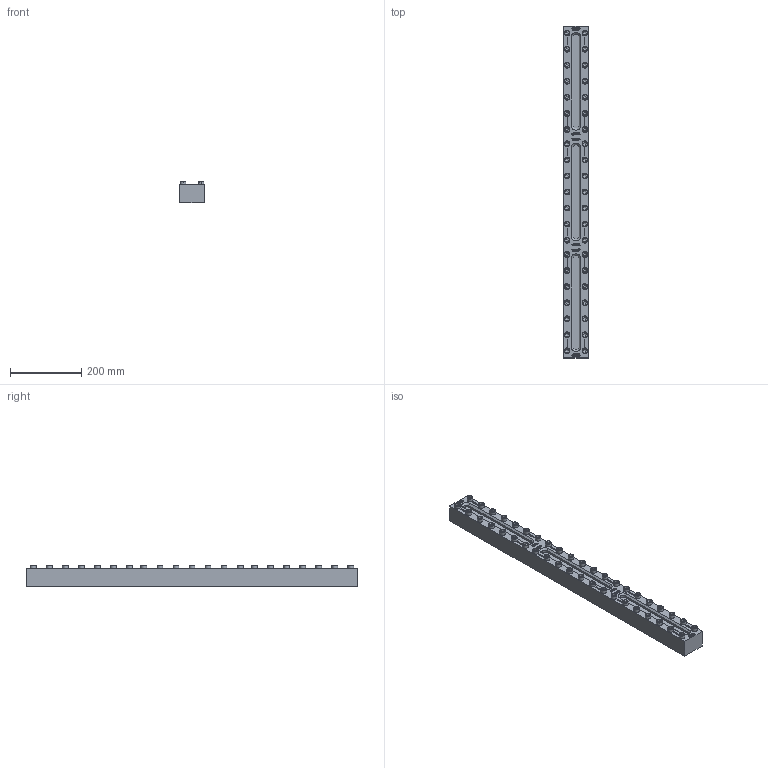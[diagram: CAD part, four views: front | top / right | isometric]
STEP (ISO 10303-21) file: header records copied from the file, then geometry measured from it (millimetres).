
FILE_DESCRIPTION(/* description */ (''),/* implementation_level */ '2;1');
FILE_NAME(/* name */ 'W:\Konstruktion_ACI\330\_Zeichnungen\STEP\ACI-330-930-16.stp',/* time_stamp */ '2022-03-01T17:28:12+01:00',/* author */ ('koslowksi'),/* organization */ (''),/* preprocessor_version */ 'ST-DEVELOPER v16.1',/* originating_system */ 'Autodesk Inventor 2016',/* authorisation */ '');
FILE_SCHEMA (('AUTOMOTIVE_DESIGN { 1 0 10303 214 3 1 1 }'));
Products named in the file (1): ACI-330-930-16.stp
Bounding box: 70 x 930 x 60.9 mm (x, y, z)
Volume: 3002955 mm3; surface area: 296945.4 mm2
Topology: 1 solids, 1 shells, 3786 faces, 10254 edges, 6818 vertices
Faces by surface type: plane 2688, bspline 954, cylinder 54, cone 48, torus 42
Full cylindrical faces by diameter (mm): 16 x42
Entity records: 124466 total; most frequent: CARTESIAN_POINT 33471, ORIENTED_EDGE 20088, DIRECTION 13706, EDGE_CURVE 10044, LINE 7728, VECTOR 7728, VERTEX_POINT 6734, EDGE_LOOP 4260
